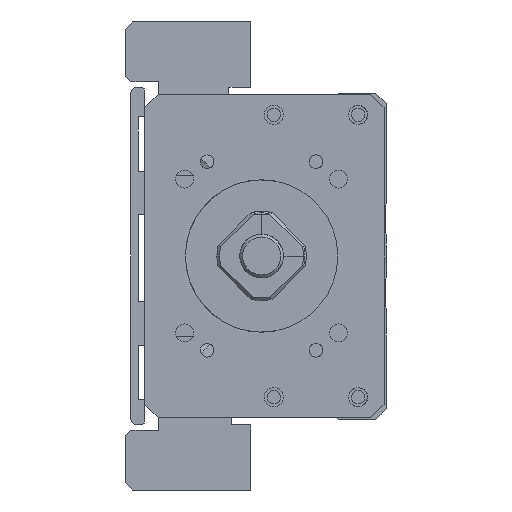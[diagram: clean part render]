
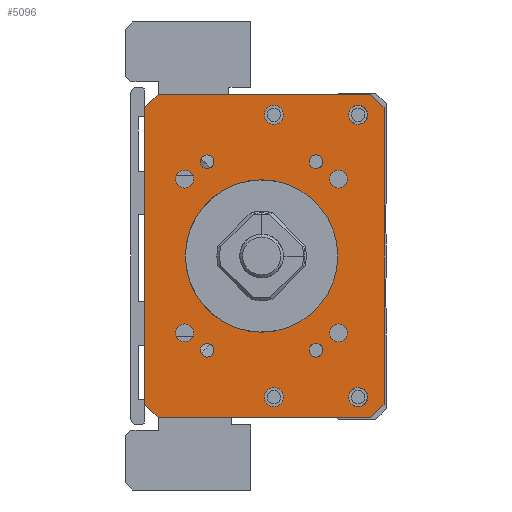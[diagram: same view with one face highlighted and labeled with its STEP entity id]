
A CAD part, left-side view. The second image highlights one B-rep face of the part: STEP entity #5096.
In plain terms, the highlighted planar face has unit normal (-1, 0, 0).
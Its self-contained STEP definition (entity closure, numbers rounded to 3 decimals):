
#5096=ADVANCED_FACE('',(#8119,#8120,#8121,#8122,#8123,#8124,#8125,#8126,
#8127,#8128,#8129,#8130,#8131,#8132),#5730,.F.);
#5730=PLANE('',#16132);
#6267=LINE('',#21262,#7214);
#6269=LINE('',#21286,#7216);
#6270=LINE('',#21288,#7217);
#6271=LINE('',#21290,#7218);
#6272=LINE('',#21292,#7219);
#6273=LINE('',#21294,#7220);
#6274=LINE('',#21296,#7221);
#6275=LINE('',#21298,#7222);
#7214=VECTOR('',#17820,1.);
#7216=VECTOR('',#17844,1.);
#7217=VECTOR('',#17845,1.);
#7218=VECTOR('',#17846,1.);
#7219=VECTOR('',#17847,1.);
#7220=VECTOR('',#17848,1.);
#7221=VECTOR('',#17849,1.);
#7222=VECTOR('',#17850,1.);
#8119=FACE_BOUND('',#8760,.T.);
#8120=FACE_BOUND('',#8761,.T.);
#8121=FACE_BOUND('',#8762,.T.);
#8122=FACE_BOUND('',#8763,.T.);
#8123=FACE_BOUND('',#8764,.T.);
#8124=FACE_BOUND('',#8765,.T.);
#8125=FACE_BOUND('',#8766,.T.);
#8126=FACE_BOUND('',#8767,.T.);
#8127=FACE_BOUND('',#8768,.T.);
#8128=FACE_BOUND('',#8769,.T.);
#8129=FACE_BOUND('',#8770,.T.);
#8130=FACE_BOUND('',#8771,.T.);
#8131=FACE_BOUND('',#8772,.T.);
#8132=FACE_BOUND('',#8773,.T.);
#8760=EDGE_LOOP('',(#10303));
#8761=EDGE_LOOP('',(#10304));
#8762=EDGE_LOOP('',(#10305));
#8763=EDGE_LOOP('',(#10306));
#8764=EDGE_LOOP('',(#10307));
#8765=EDGE_LOOP('',(#10308));
#8766=EDGE_LOOP('',(#10309));
#8767=EDGE_LOOP('',(#10310));
#8768=EDGE_LOOP('',(#10311));
#8769=EDGE_LOOP('',(#10312,#10313,#10314,#10315,#10316,#10317,#10318,#10319));
#8770=EDGE_LOOP('',(#10320));
#8771=EDGE_LOOP('',(#10321));
#8772=EDGE_LOOP('',(#10322));
#8773=EDGE_LOOP('',(#10323));
#10303=ORIENTED_EDGE('',*,*,#14201,.F.);
#10304=ORIENTED_EDGE('',*,*,#14202,.F.);
#10305=ORIENTED_EDGE('',*,*,#14203,.F.);
#10306=ORIENTED_EDGE('',*,*,#14204,.F.);
#10307=ORIENTED_EDGE('',*,*,#14205,.F.);
#10308=ORIENTED_EDGE('',*,*,#14206,.T.);
#10309=ORIENTED_EDGE('',*,*,#14207,.F.);
#10310=ORIENTED_EDGE('',*,*,#14208,.F.);
#10311=ORIENTED_EDGE('',*,*,#14209,.F.);
#10312=ORIENTED_EDGE('',*,*,#14198,.T.);
#10313=ORIENTED_EDGE('',*,*,#14210,.T.);
#10314=ORIENTED_EDGE('',*,*,#14211,.F.);
#10315=ORIENTED_EDGE('',*,*,#14212,.T.);
#10316=ORIENTED_EDGE('',*,*,#14213,.F.);
#10317=ORIENTED_EDGE('',*,*,#14214,.T.);
#10318=ORIENTED_EDGE('',*,*,#14215,.T.);
#10319=ORIENTED_EDGE('',*,*,#14216,.T.);
#10320=ORIENTED_EDGE('',*,*,#14217,.F.);
#10321=ORIENTED_EDGE('',*,*,#14218,.F.);
#10322=ORIENTED_EDGE('',*,*,#14219,.F.);
#10323=ORIENTED_EDGE('',*,*,#14178,.F.);
#12951=VERTEX_POINT('',#21201);
#12971=VERTEX_POINT('',#21261);
#12972=VERTEX_POINT('',#21263);
#12974=VERTEX_POINT('',#21269);
#12975=VERTEX_POINT('',#21271);
#12976=VERTEX_POINT('',#21273);
#12977=VERTEX_POINT('',#21275);
#12978=VERTEX_POINT('',#21277);
#12979=VERTEX_POINT('',#21279);
#12980=VERTEX_POINT('',#21281);
#12981=VERTEX_POINT('',#21283);
#12982=VERTEX_POINT('',#21285);
#12983=VERTEX_POINT('',#21287);
#12984=VERTEX_POINT('',#21289);
#12985=VERTEX_POINT('',#21291);
#12986=VERTEX_POINT('',#21293);
#12987=VERTEX_POINT('',#21295);
#12988=VERTEX_POINT('',#21297);
#12989=VERTEX_POINT('',#21300);
#12990=VERTEX_POINT('',#21302);
#12991=VERTEX_POINT('',#21304);
#14178=EDGE_CURVE('',#12951,#12951,#15499,.T.);
#14198=EDGE_CURVE('',#12972,#12971,#6267,.T.);
#14201=EDGE_CURVE('',#12974,#12974,#15508,.T.);
#14202=EDGE_CURVE('',#12975,#12975,#15509,.T.);
#14203=EDGE_CURVE('',#12976,#12976,#15510,.T.);
#14204=EDGE_CURVE('',#12977,#12977,#15511,.T.);
#14205=EDGE_CURVE('',#12978,#12978,#15512,.T.);
#14206=EDGE_CURVE('',#12979,#12979,#15513,.T.);
#14207=EDGE_CURVE('',#12980,#12980,#15514,.T.);
#14208=EDGE_CURVE('',#12981,#12981,#15515,.T.);
#14209=EDGE_CURVE('',#12982,#12982,#15516,.T.);
#14210=EDGE_CURVE('',#12971,#12983,#6269,.T.);
#14211=EDGE_CURVE('',#12984,#12983,#6270,.T.);
#14212=EDGE_CURVE('',#12984,#12985,#6271,.T.);
#14213=EDGE_CURVE('',#12986,#12985,#6272,.T.);
#14214=EDGE_CURVE('',#12986,#12987,#6273,.T.);
#14215=EDGE_CURVE('',#12987,#12988,#6274,.T.);
#14216=EDGE_CURVE('',#12988,#12972,#6275,.T.);
#14217=EDGE_CURVE('',#12989,#12989,#15517,.T.);
#14218=EDGE_CURVE('',#12990,#12990,#15518,.T.);
#14219=EDGE_CURVE('',#12991,#12991,#15519,.T.);
#15499=CIRCLE('',#16109,14.);
#15508=CIRCLE('',#16120,1.65);
#15509=CIRCLE('',#16121,1.65);
#15510=CIRCLE('',#16122,1.65);
#15511=CIRCLE('',#16123,1.65);
#15512=CIRCLE('',#16124,1.25);
#15513=CIRCLE('',#16125,1.75);
#15514=CIRCLE('',#16126,1.25);
#15515=CIRCLE('',#16127,1.75);
#15516=CIRCLE('',#16128,1.25);
#15517=CIRCLE('',#16129,1.75);
#15518=CIRCLE('',#16130,1.75);
#15519=CIRCLE('',#16131,1.25);
#16109=AXIS2_PLACEMENT_3D('',#21200,#17794,#17795);
#16120=AXIS2_PLACEMENT_3D('',#21268,#17826,#17827);
#16121=AXIS2_PLACEMENT_3D('',#21270,#17828,#17829);
#16122=AXIS2_PLACEMENT_3D('',#21272,#17830,#17831);
#16123=AXIS2_PLACEMENT_3D('',#21274,#17832,#17833);
#16124=AXIS2_PLACEMENT_3D('',#21276,#17834,#17835);
#16125=AXIS2_PLACEMENT_3D('',#21278,#17836,#17837);
#16126=AXIS2_PLACEMENT_3D('',#21280,#17838,#17839);
#16127=AXIS2_PLACEMENT_3D('',#21282,#17840,#17841);
#16128=AXIS2_PLACEMENT_3D('',#21284,#17842,#17843);
#16129=AXIS2_PLACEMENT_3D('',#21299,#17851,#17852);
#16130=AXIS2_PLACEMENT_3D('',#21301,#17853,#17854);
#16131=AXIS2_PLACEMENT_3D('',#21303,#17855,#17856);
#16132=AXIS2_PLACEMENT_3D('',#21305,#17857,#17858);
#17794=DIRECTION('',(-1.,0.,0.));
#17795=DIRECTION('',(0.,1.,0.));
#17820=DIRECTION('',(0.,0.,-1.));
#17826=DIRECTION('',(-1.,0.,0.));
#17827=DIRECTION('',(0.,0.,1.));
#17828=DIRECTION('',(-1.,0.,0.));
#17829=DIRECTION('',(0.,0.,1.));
#17830=DIRECTION('',(-1.,0.,0.));
#17831=DIRECTION('',(0.,0.,1.));
#17832=DIRECTION('',(-1.,0.,0.));
#17833=DIRECTION('',(0.,0.,1.));
#17834=DIRECTION('',(-1.,0.,0.));
#17835=DIRECTION('',(0.,1.,0.));
#17836=DIRECTION('',(1.,0.,0.));
#17837=DIRECTION('',(0.,0.,1.));
#17838=DIRECTION('',(-1.,0.,0.));
#17839=DIRECTION('',(0.,1.,0.));
#17840=DIRECTION('',(-1.,0.,0.));
#17841=DIRECTION('',(0.,0.,1.));
#17842=DIRECTION('',(-1.,0.,0.));
#17843=DIRECTION('',(0.,1.,0.));
#17844=DIRECTION('',(0.,-0.707,-0.707));
#17845=DIRECTION('',(0.,1.,0.));
#17846=DIRECTION('',(0.,-0.707,0.707));
#17847=DIRECTION('',(0.,0.,-1.));
#17848=DIRECTION('',(0.,0.707,0.707));
#17849=DIRECTION('',(0.,1.,0.));
#17850=DIRECTION('',(0.,0.707,-0.707));
#17851=DIRECTION('',(-1.,0.,0.));
#17852=DIRECTION('',(0.,0.,1.));
#17853=DIRECTION('',(-1.,0.,0.));
#17854=DIRECTION('',(0.,0.,1.));
#17855=DIRECTION('',(-1.,0.,0.));
#17856=DIRECTION('',(0.,1.,0.));
#17857=DIRECTION('',(1.,0.,0.));
#17858=DIRECTION('',(0.,1.,0.));
#21200=CARTESIAN_POINT('',(-211.,0.,-100.));
#21201=CARTESIAN_POINT('',(-211.,14.,-100.));
#21261=CARTESIAN_POINT('',(-211.,21.499,-127.25));
#21262=CARTESIAN_POINT('',(-211.,21.499,-70.25));
#21263=CARTESIAN_POINT('',(-211.,21.499,-72.75));
#21268=CARTESIAN_POINT('',(-211.,14.142,-85.858));
#21269=CARTESIAN_POINT('',(-211.,14.142,-84.208));
#21270=CARTESIAN_POINT('',(-211.,-14.142,-85.858));
#21271=CARTESIAN_POINT('',(-211.,-14.142,-84.208));
#21272=CARTESIAN_POINT('',(-211.,14.142,-114.142));
#21273=CARTESIAN_POINT('',(-211.,14.142,-112.492));
#21274=CARTESIAN_POINT('',(-211.,-14.142,-114.142));
#21275=CARTESIAN_POINT('',(-211.,-14.142,-112.492));
#21276=CARTESIAN_POINT('',(-211.,-10.,-117.321));
#21277=CARTESIAN_POINT('',(-211.,-8.75,-117.321));
#21278=CARTESIAN_POINT('',(-211.,-2.25,-125.936));
#21279=CARTESIAN_POINT('',(-211.,-2.25,-124.186));
#21280=CARTESIAN_POINT('',(-211.,10.,-82.679));
#21281=CARTESIAN_POINT('',(-211.,11.25,-82.679));
#21282=CARTESIAN_POINT('',(-211.,-2.25,-74.064));
#21283=CARTESIAN_POINT('',(-211.,-2.25,-72.314));
#21284=CARTESIAN_POINT('',(-211.,10.,-117.321));
#21285=CARTESIAN_POINT('',(-211.,11.25,-117.321));
#21286=CARTESIAN_POINT('',(-211.,18.999,-129.75));
#21287=CARTESIAN_POINT('',(-211.,18.999,-129.75));
#21288=CARTESIAN_POINT('',(-211.,-22.501,-129.75));
#21289=CARTESIAN_POINT('',(-211.,-20.001,-129.75));
#21290=CARTESIAN_POINT('',(-211.,-22.501,-127.25));
#21291=CARTESIAN_POINT('',(-211.,-22.501,-127.25));
#21292=CARTESIAN_POINT('',(-211.,-22.501,-70.25));
#21293=CARTESIAN_POINT('',(-211.,-22.501,-72.75));
#21294=CARTESIAN_POINT('',(-211.,-22.501,-72.75));
#21295=CARTESIAN_POINT('',(-211.,-20.001,-70.25));
#21296=CARTESIAN_POINT('',(-211.,-22.501,-70.25));
#21297=CARTESIAN_POINT('',(-211.,18.999,-70.25));
#21298=CARTESIAN_POINT('',(-211.,18.999,-70.25));
#21299=CARTESIAN_POINT('',(-211.,-17.75,-74.064));
#21300=CARTESIAN_POINT('',(-211.,-17.75,-72.314));
#21301=CARTESIAN_POINT('',(-211.,-17.75,-125.936));
#21302=CARTESIAN_POINT('',(-211.,-17.75,-124.186));
#21303=CARTESIAN_POINT('',(-211.,-10.,-82.679));
#21304=CARTESIAN_POINT('',(-211.,-8.75,-82.679));
#21305=CARTESIAN_POINT('',(-211.,-22.501,-70.25));
